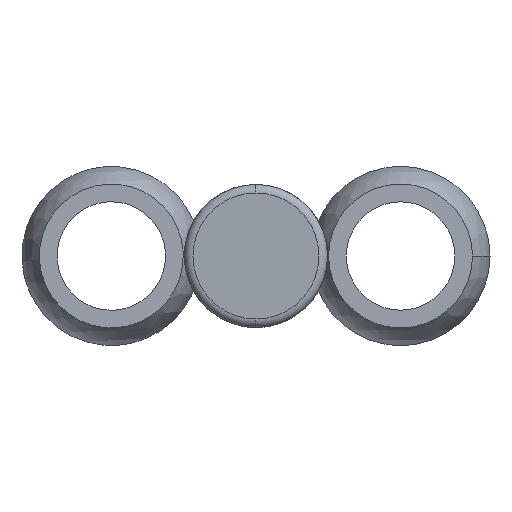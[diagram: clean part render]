
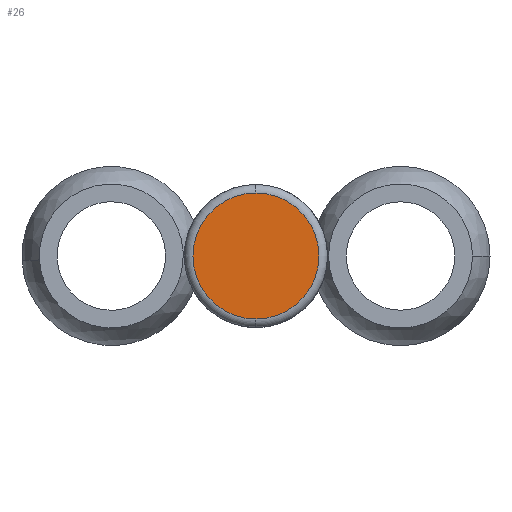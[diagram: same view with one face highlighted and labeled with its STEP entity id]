
A CAD part, front view. The second image highlights one B-rep face of the part: STEP entity #26.
In plain terms, the highlighted planar face has unit normal (0, -1, 0).
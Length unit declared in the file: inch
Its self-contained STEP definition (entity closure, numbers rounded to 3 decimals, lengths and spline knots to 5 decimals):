
#26 = ADVANCED_FACE ( 'NONE', ( #89 ), #905, .F. ) ;
#51 = CARTESIAN_POINT ( 'NONE',  ( 0., -0.95, 0. ) ) ;
#82 = EDGE_CURVE ( 'NONE', #1208, #168, #1334, .T. ) ;
#89 = FACE_OUTER_BOUND ( 'NONE', #735, .T. ) ;
#168 = VERTEX_POINT ( 'NONE', #401 ) ;
#304 = DIRECTION ( 'NONE',  ( 0., 0., 1. ) ) ;
#361 = ORIENTED_EDGE ( 'NONE', *, *, #82, .T. ) ;
#385 = DIRECTION ( 'NONE',  ( 0., 0., 1. ) ) ;
#399 = AXIS2_PLACEMENT_3D ( 'NONE', #51, #484, #385 ) ;
#401 = CARTESIAN_POINT ( 'NONE',  ( 0., -0.95, 0.22 ) ) ;
#439 = EDGE_CURVE ( 'NONE', #168, #1208, #1400, .T. ) ;
#484 = DIRECTION ( 'NONE',  ( 0., -1., 0. ) ) ;
#504 = DIRECTION ( 'NONE',  ( 0., -1., 0. ) ) ;
#645 = CARTESIAN_POINT ( 'NONE',  ( 0., -0.95, -0.22 ) ) ;
#717 = DIRECTION ( 'NONE',  ( 0., 0., 1. ) ) ;
#735 = EDGE_LOOP ( 'NONE', ( #1055, #361 ) ) ;
#905 = PLANE ( 'NONE',  #1103 ) ;
#1055 = ORIENTED_EDGE ( 'NONE', *, *, #439, .T. ) ;
#1103 = AXIS2_PLACEMENT_3D ( 'NONE', #1245, #1229, #717 ) ;
#1208 = VERTEX_POINT ( 'NONE', #645 ) ;
#1229 = DIRECTION ( 'NONE',  ( 0., 1., 0. ) ) ;
#1245 = CARTESIAN_POINT ( 'NONE',  ( 0., -0.95, 0. ) ) ;
#1248 = AXIS2_PLACEMENT_3D ( 'NONE', #1269, #504, #304 ) ;
#1269 = CARTESIAN_POINT ( 'NONE',  ( 0., -0.95, 0. ) ) ;
#1334 = CIRCLE ( 'NONE', #1248, 0.22 ) ;
#1400 = CIRCLE ( 'NONE', #399, 0.22 ) ;
